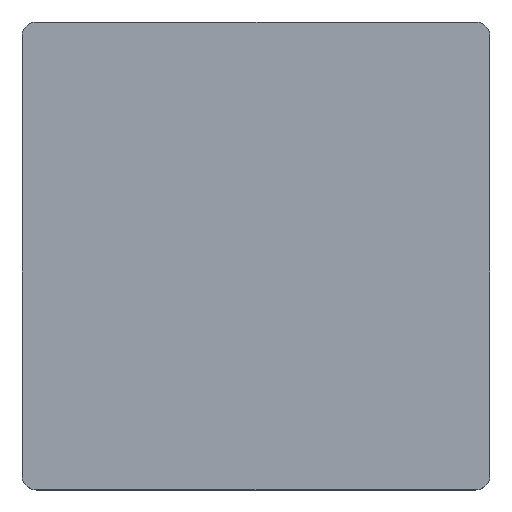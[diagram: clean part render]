
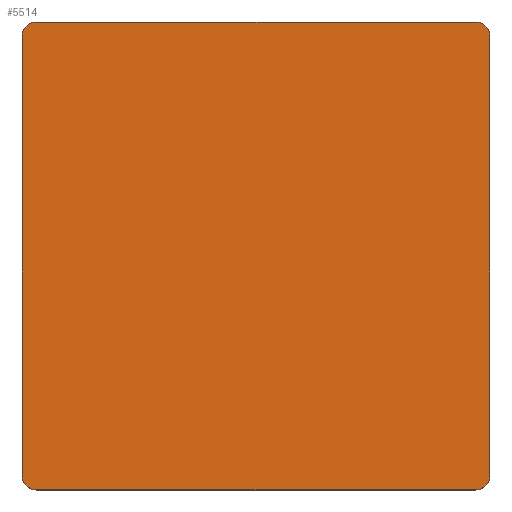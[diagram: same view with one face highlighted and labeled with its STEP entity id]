
A CAD part, top view. The second image highlights one B-rep face of the part: STEP entity #5514.
In plain terms, the highlighted planar face has unit normal (0, 0, 1).
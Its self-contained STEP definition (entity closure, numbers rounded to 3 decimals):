
#145 = EDGE_CURVE ( 'NONE', #3337, #4179, #1202, .T. ) ;
#148 = ORIENTED_EDGE ( 'NONE', *, *, #2504, .T. ) ;
#161 = AXIS2_PLACEMENT_3D ( 'NONE', #4228, #4296, #4353 ) ;
#377 = LINE ( 'NONE', #2216, #7025 ) ;
#395 = PLANE ( 'NONE',  #161 ) ;
#479 = CARTESIAN_POINT ( 'NONE',  ( 53.6, 91.5, 5. ) ) ;
#524 = DIRECTION ( 'NONE',  ( -1., 0., 0. ) ) ;
#655 = DIRECTION ( 'NONE',  ( 0., 0., 1. ) ) ;
#986 = CARTESIAN_POINT ( 'NONE',  ( 55.6, 91.5, 5. ) ) ;
#1020 = VERTEX_POINT ( 'NONE', #2614 ) ;
#1116 = CARTESIAN_POINT ( 'NONE',  ( 55.6, 151.5, 5. ) ) ;
#1202 = LINE ( 'NONE', #2983, #1883 ) ;
#1228 = CARTESIAN_POINT ( 'NONE',  ( 55.6, 89.5, 5. ) ) ;
#1249 = EDGE_CURVE ( 'NONE', #4178, #5590, #6940, .T. ) ;
#1549 = DIRECTION ( 'NONE',  ( -1., 0., 0. ) ) ;
#1761 = FACE_OUTER_BOUND ( 'NONE', #3319, .T. ) ;
#1883 = VECTOR ( 'NONE', #2446, 1000. ) ;
#2095 = ORIENTED_EDGE ( 'NONE', *, *, #6824, .T. ) ;
#2137 = DIRECTION ( 'NONE',  ( 0., 0., 1. ) ) ;
#2203 = DIRECTION ( 'NONE',  ( 0., 0., 1. ) ) ;
#2216 = CARTESIAN_POINT ( 'NONE',  ( 117.6, 89.5, 5. ) ) ;
#2286 = DIRECTION ( 'NONE',  ( 1., 0., 0. ) ) ;
#2391 = CARTESIAN_POINT ( 'NONE',  ( 115.6, 151.5, 5. ) ) ;
#2446 = DIRECTION ( 'NONE',  ( 0., 1., 0. ) ) ;
#2504 = EDGE_CURVE ( 'NONE', #3337, #2710, #6951, .T. ) ;
#2614 = CARTESIAN_POINT ( 'NONE',  ( 55.6, 153.5, 5. ) ) ;
#2632 = VECTOR ( 'NONE', #6003, 1000. ) ;
#2710 = VERTEX_POINT ( 'NONE', #1228 ) ;
#2711 = AXIS2_PLACEMENT_3D ( 'NONE', #986, #2137, #1549 ) ;
#2881 = LINE ( 'NONE', #7080, #2632 ) ;
#2966 = EDGE_CURVE ( 'NONE', #1020, #4157, #3537, .T. ) ;
#2983 = CARTESIAN_POINT ( 'NONE',  ( 53.6, 89.5, 5. ) ) ;
#3100 = VERTEX_POINT ( 'NONE', #6844 ) ;
#3293 = DIRECTION ( 'NONE',  ( 0., 0., 1. ) ) ;
#3317 = EDGE_CURVE ( 'NONE', #3100, #5590, #2881, .T. ) ;
#3319 = EDGE_LOOP ( 'NONE', ( #5160, #4243, #6118, #4593, #5122, #2095, #5274, #148 ) ) ;
#3337 = VERTEX_POINT ( 'NONE', #479 ) ;
#3537 = LINE ( 'NONE', #3932, #5620 ) ;
#3640 = AXIS2_PLACEMENT_3D ( 'NONE', #6593, #2203, #6979 ) ;
#3881 = CIRCLE ( 'NONE', #4309, 2. ) ;
#3932 = CARTESIAN_POINT ( 'NONE',  ( 53.6, 153.5, 5. ) ) ;
#4157 = VERTEX_POINT ( 'NONE', #5505 ) ;
#4178 = VERTEX_POINT ( 'NONE', #4406 ) ;
#4179 = VERTEX_POINT ( 'NONE', #6064 ) ;
#4228 = CARTESIAN_POINT ( 'NONE',  ( 53.6, 153.5, 5. ) ) ;
#4243 = ORIENTED_EDGE ( 'NONE', *, *, #1249, .T. ) ;
#4296 = DIRECTION ( 'NONE',  ( 0., 0., -1. ) ) ;
#4309 = AXIS2_PLACEMENT_3D ( 'NONE', #2391, #655, #4499 ) ;
#4325 = AXIS2_PLACEMENT_3D ( 'NONE', #1116, #3293, #524 ) ;
#4353 = DIRECTION ( 'NONE',  ( -1., 0., 0. ) ) ;
#4406 = CARTESIAN_POINT ( 'NONE',  ( 115.6, 89.5, 5. ) ) ;
#4499 = DIRECTION ( 'NONE',  ( -1., 0., 0. ) ) ;
#4593 = ORIENTED_EDGE ( 'NONE', *, *, #6512, .T. ) ;
#5122 = ORIENTED_EDGE ( 'NONE', *, *, #2966, .F. ) ;
#5160 = ORIENTED_EDGE ( 'NONE', *, *, #5688, .F. ) ;
#5274 = ORIENTED_EDGE ( 'NONE', *, *, #145, .F. ) ;
#5505 = CARTESIAN_POINT ( 'NONE',  ( 115.6, 153.5, 5. ) ) ;
#5514 = ADVANCED_FACE ( 'NONE', ( #1761 ), #395, .F. ) ;
#5590 = VERTEX_POINT ( 'NONE', #7121 ) ;
#5620 = VECTOR ( 'NONE', #2286, 1000. ) ;
#5688 = EDGE_CURVE ( 'NONE', #4178, #2710, #377, .T. ) ;
#5701 = CIRCLE ( 'NONE', #4325, 2. ) ;
#6003 = DIRECTION ( 'NONE',  ( 0., -1., 0. ) ) ;
#6064 = CARTESIAN_POINT ( 'NONE',  ( 53.6, 151.5, 5. ) ) ;
#6118 = ORIENTED_EDGE ( 'NONE', *, *, #3317, .F. ) ;
#6512 = EDGE_CURVE ( 'NONE', #3100, #4157, #3881, .T. ) ;
#6593 = CARTESIAN_POINT ( 'NONE',  ( 115.6, 91.5, 5. ) ) ;
#6629 = DIRECTION ( 'NONE',  ( -1., 0., 0. ) ) ;
#6824 = EDGE_CURVE ( 'NONE', #1020, #4179, #5701, .T. ) ;
#6844 = CARTESIAN_POINT ( 'NONE',  ( 117.6, 151.5, 5. ) ) ;
#6940 = CIRCLE ( 'NONE', #3640, 2. ) ;
#6951 = CIRCLE ( 'NONE', #2711, 2. ) ;
#6979 = DIRECTION ( 'NONE',  ( -1., 0., 0. ) ) ;
#7025 = VECTOR ( 'NONE', #6629, 1000. ) ;
#7080 = CARTESIAN_POINT ( 'NONE',  ( 117.6, 153.5, 5. ) ) ;
#7121 = CARTESIAN_POINT ( 'NONE',  ( 117.6, 91.5, 5. ) ) ;
